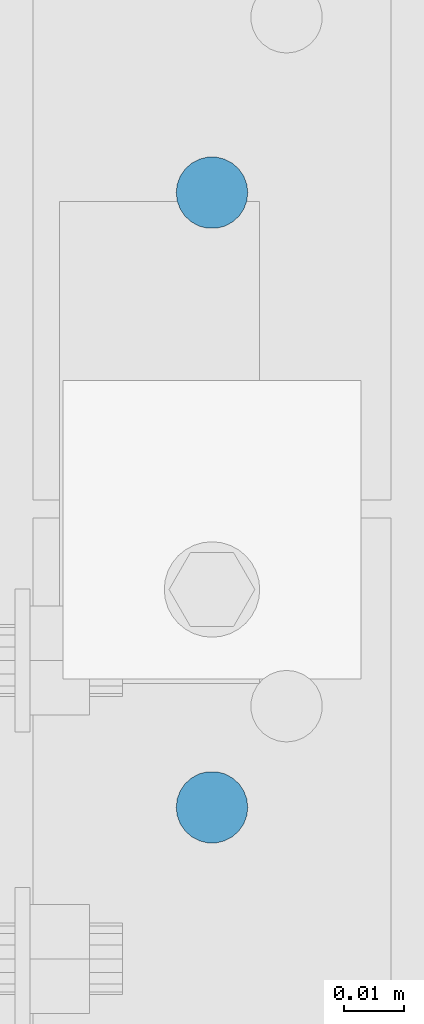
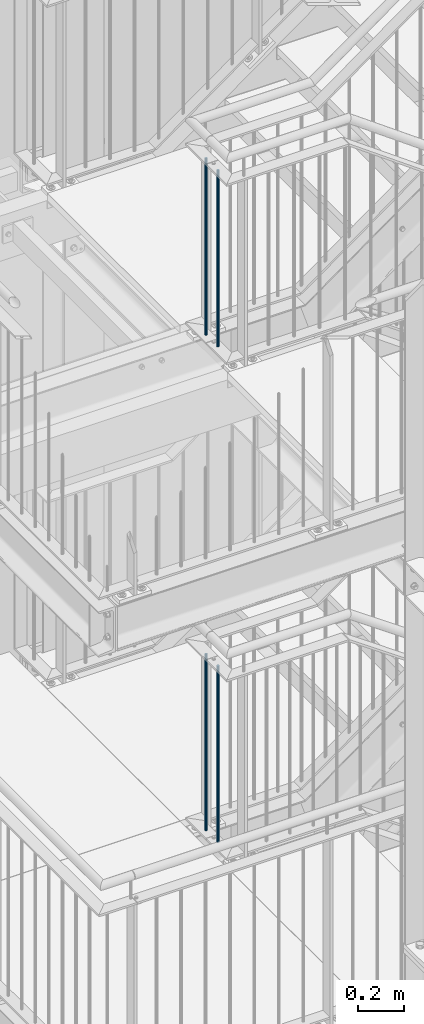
# One storey, part 30 of 831: 4 columns.
"""IFC2X3 building model written with IfcOpenShell, lengths in millimetres."""

from ifc_helpers import new_model, entity, si_unit, converted_unit, frame, origin, origin_with_axes, origin_2d, place, context, project, spatial, circle, extrude, material, element, save


model = new_model("IFC2X3")

# Units and contexts
model_context = context("Model", 3, precision=1e-09, world=origin_with_axes())
ifc_project = project(units=[si_unit("LENGTHUNIT", "METRE", prefix="MILLI"), si_unit("AREAUNIT", "SQUARE_METRE"), si_unit("VOLUMEUNIT", "CUBIC_METRE"), converted_unit("PLANEANGLEUNIT", "DEGREE", entity("IfcPlaneAngleMeasure", 0.01745329), si_unit("PLANEANGLEUNIT", "RADIAN"), dimensions=[0, 0, 0, 0, 0, 0, 0])], contexts=[model_context])

# Site, building, storey
site_placement = place(None, origin_with_axes())
site = spatial("IfcSite", under=ifc_project, at=site_placement, Name="Site", CompositionType="ELEMENT")
building_placement = place(site_placement, origin_with_axes())
building = spatial("IfcBuilding", under=site, at=building_placement, Name="Struktur 1", CompositionType="ELEMENT")
storey_placement = place(building_placement, origin_with_axes())
storey = spatial("IfcBuildingStorey", under=building, at=storey_placement, Name="Default Storey", CompositionType="ELEMENT", Elevation=0.0)

# Columns
ifc_material = material(Name="S235JR")
for number, where, z_axis, x_axis, name in (
    (1, (4644.215455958, 5890.236971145, 8328.798924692), (0.0, 0.0, 1.0), (-1.0, 0.0, 0.0), "Railing_Picket_Stair#0"),
    (2, (4644.215455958, 5993.236971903, 8328.798924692), (0.0, 0.0, 1.0), (-1.0, 0.0, 0.0), "Railing_Picket_Stair#0"),
    (3, (4644.215455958, 5890.236971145, 10960.798924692), (0.0, 0.0, 1.0), (-1.0, 0.0, 0.0), "Railing_Picket_Stair#0"),
    (4, (4644.215455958, 5993.236971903, 10960.798924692), (0.0, 0.0, 1.0), (-1.0, 0.0, 0.0), "Railing_Picket_Stair#0"),
):
    element("IfcColumn", number, at=place(None, frame(where, z_axis=z_axis, x_axis=x_axis)), inside=storey, material=ifc_material, Name=name, ObjectType="Railing_Picket_Stair#0", context=model_context, shape_type="SweptSolid", body=[
        extrude(circle(Radius=6.0, at=origin_2d()), origin(), (0.0, 0.0, -1.0), 938.8),
    ])

save(model, "model.ifc")
